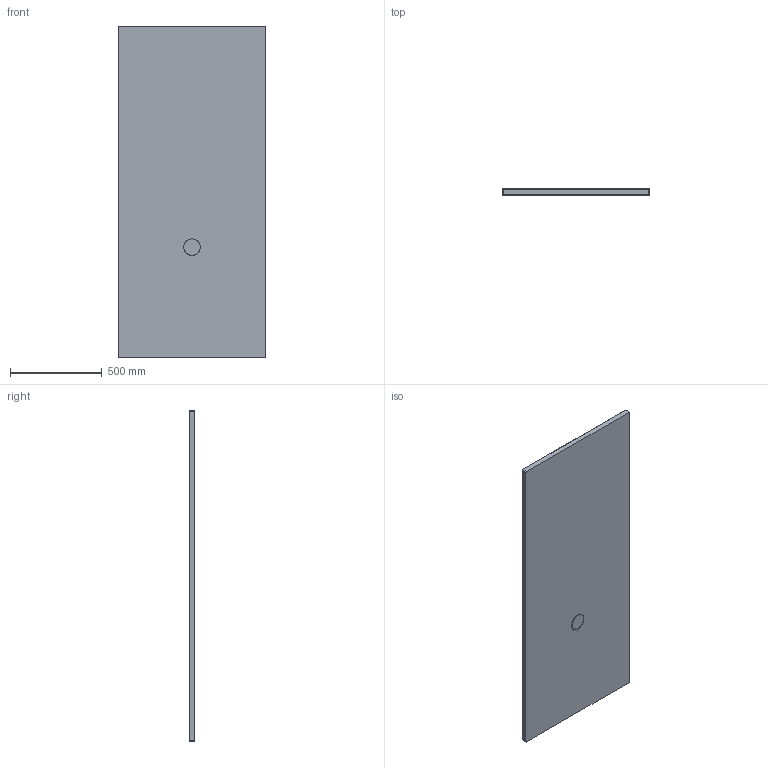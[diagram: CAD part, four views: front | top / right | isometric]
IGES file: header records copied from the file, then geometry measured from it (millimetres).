
Start section: SolidWorks IGES file using analytic representation for surfaces
Global section: file name: D:\Users\M.Szymanski\Desktop\Brodziki\Nias\B_M_NIAS_180x80x1,5.IGS; native system: SolidWorks 2011; preprocessor: SolidWorks 2011; author: M.Szymanski; date: 180222.142612; units: millimetre
Bounding box: 800 x 30 x 1800 mm (x, y, z)
Surface area: 3053793.2 mm2 (no closed solid volume)
Topology: 0 solids, 0 shells, 45 faces, 683 edges, 682 vertices
Faces by surface type: bspline 25, revolution 20
